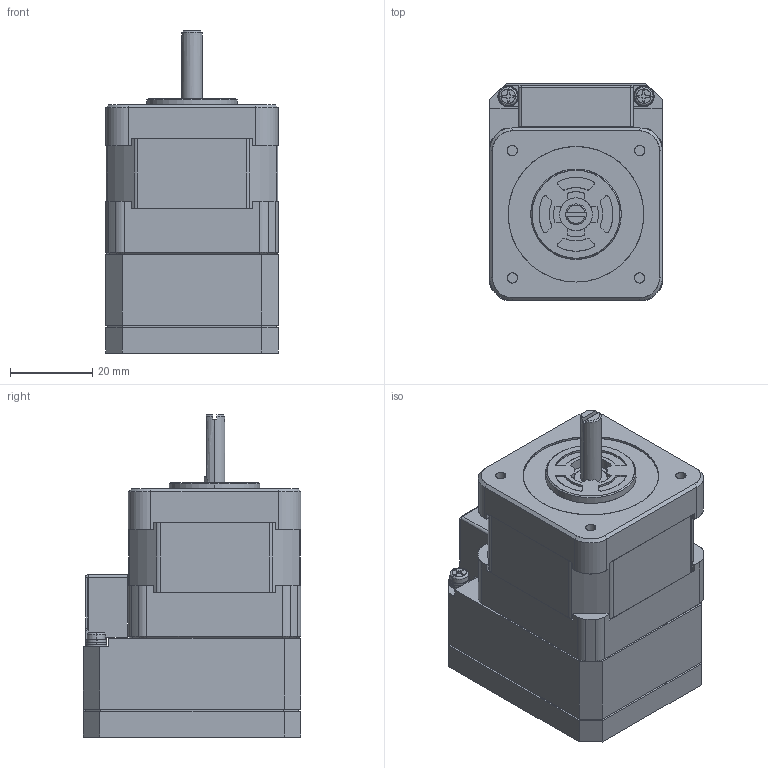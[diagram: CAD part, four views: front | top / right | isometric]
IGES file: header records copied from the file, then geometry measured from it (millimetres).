
Start section: SolidWorks IGES file using analytic representation for surfaces
Global section: file name: C:\Users\render\Documents\CAD Files\CoolmuscleMotors\CM1 Series CAD\CM1-17S-NE\CM1-X-17S30C.IGS; native system: SolidWorks 2011; preprocessor: SolidWorks 2011; author: render; date: 120206.094908; units: millimetre
Bounding box: 42 x 53 x 78.4 mm (x, y, z)
Surface area: 22279.2 mm2 (no closed solid volume)
Topology: 0 solids, 0 shells, 849 faces, 7338 edges, 7330 vertices
Faces by surface type: bspline 605, revolution 244
